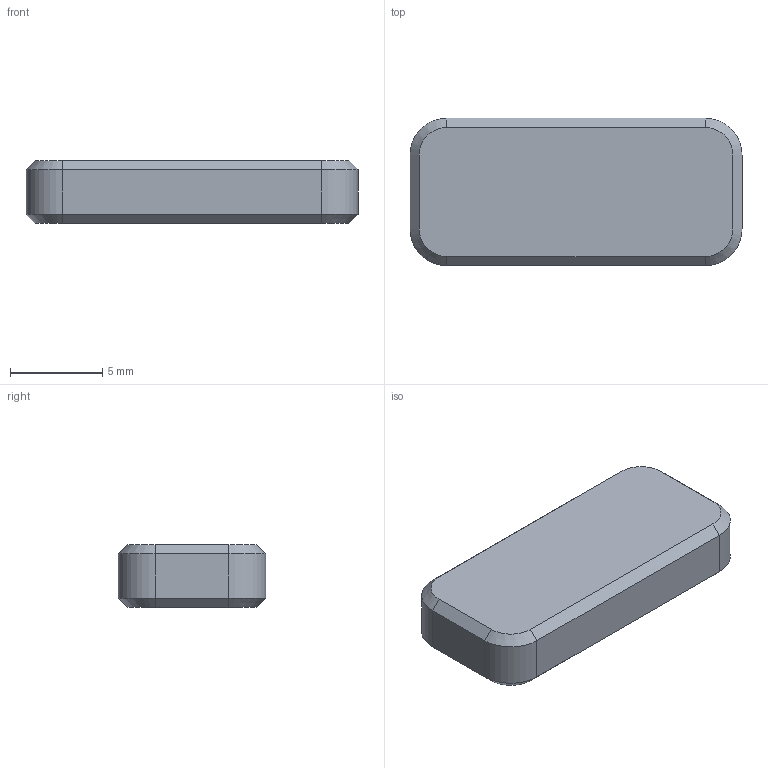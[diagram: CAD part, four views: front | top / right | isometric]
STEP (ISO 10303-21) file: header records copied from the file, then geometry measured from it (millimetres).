
FILE_DESCRIPTION(/* description */ ('STEP AP242','CAx-IF Rec.Pracs.---Representation and Presentation of Product Manufacturing Information (PMI)---4.0---2014-10-13','CAx-IF Rec.Pracs.---3D Tessellated Geometry---0.4---2014-09-14','2;1'),/* implementation_level */ '2;1');
FILE_NAME(/* name */ '687e6c28f344454910d48296',/* time_stamp */ '2025-07-21T16:34:48Z',/* author */ (''),/* organization */ (''),/* preprocessor_version */ 'ST-DEVELOPER v20',/* originating_system */ 'ONSHAPE BY PTC INC, 1.201',/* authorisation */ ' ');
FILE_SCHEMA (('AP242_MANAGED_MODEL_BASED_3D_ENGINEERING_MIM_LF { 1 0 10303 442 1 1 4 }'));
Length unit declared in the file: metre
Products named in the file (1): Slider Button
Bounding box: 18 x 8 x 3.41 mm (x, y, z)
Volume: 426.4 mm3; surface area: 493.3 mm2
Topology: 1 solids, 1 shells, 41 faces, 92 edges, 56 vertices
Faces by surface type: plane 25, cylinder 8, cone 8
Entity records: 1144 total; most frequent: DIRECTION 200, CARTESIAN_POINT 190, ORIENTED_EDGE 184, EDGE_CURVE 92, LINE 68, VECTOR 68, AXIS2_PLACEMENT_3D 66, VERTEX_POINT 56
